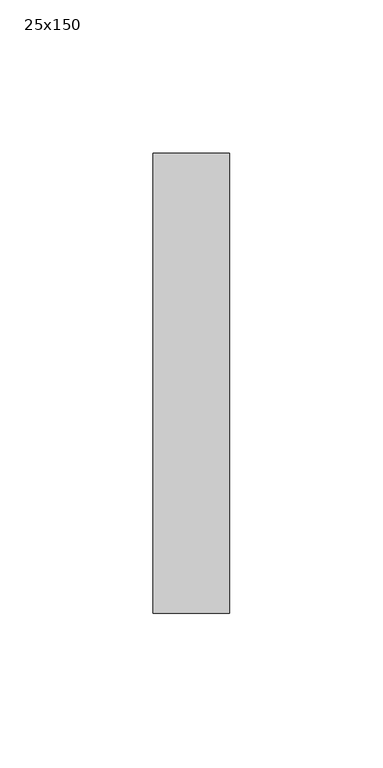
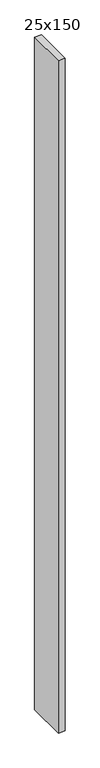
"""IFC4 building model written with IfcOpenShell, lengths in millimetres: member geometry, 長方形のマリオン : 25x150."""

from ifc_helpers import new_model, si_unit, frame, origin, place, context, project, spatial, polyline, outline, extrude, source, transform, mapped, element, save


def member_25x150_5b56dd58(model_context):
    return source(origin(), model_context, "Body", "SweptSolid", [
        extrude(outline(polyline([(0.0, 75.0), (0.0, -75.0), (-25.0, -75.0), (-25.0, 75.0), (0.0, 75.0)])), frame((0.0, 0.0, -2595.0), z_axis=(0.0, 0.0, 1.0), x_axis=(1.0, 0.0, 0.0)), (0.0, 0.0, 1.0), 2595.0),
    ])


if __name__ == "__main__":
    model = new_model("IFC4")
    model_context = context("Model", 3, world=origin())
    ifc_project = project(units=[si_unit("LENGTHUNIT", "METRE", prefix="MILLI")], contexts=[model_context])
    site = spatial("IfcSite", under=ifc_project)
    building = spatial("IfcBuilding", under=site)
    placement = place(None, origin())
    member_25x150_shape = member_25x150_5b56dd58(model_context)
    element("IfcMember", 1, ObjectType="長方形のマリオン : 25x150", at=placement, inside=building, context=model_context, shape_type="MappedRepresentation", body=[
        mapped(member_25x150_shape, transform((0.0, 0.0, 0.0), x_axis=(1.0, 0.0, 0.0), y_axis=(0.0, 1.0, 0.0), z_axis=(0.0, 0.0, 1.0))),
    ])
    save(model, "model.ifc")
